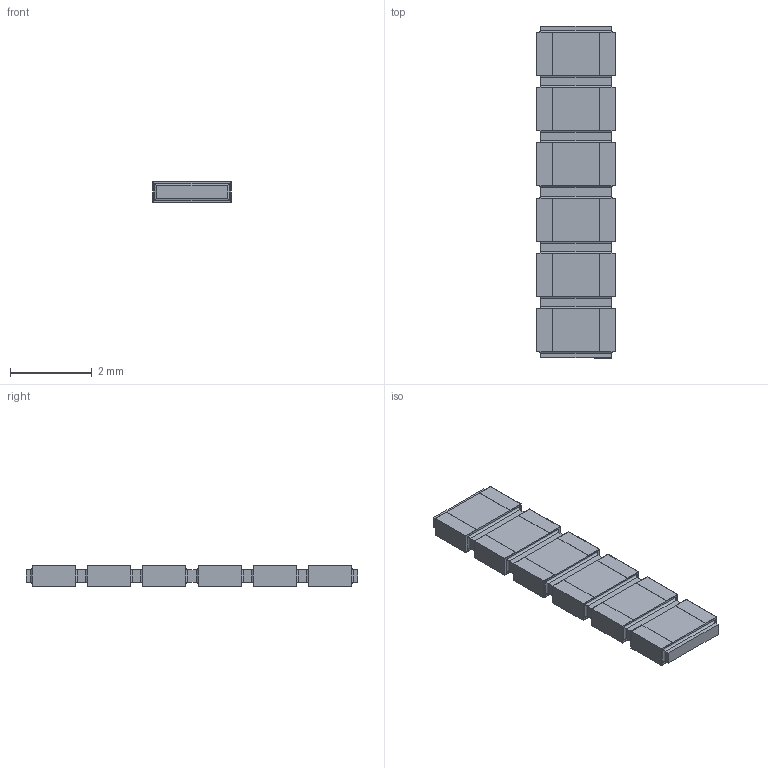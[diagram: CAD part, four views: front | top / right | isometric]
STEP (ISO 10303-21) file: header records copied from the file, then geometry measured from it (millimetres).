
FILE_DESCRIPTION(/* description */ (''),/* implementation_level */ '2;1');
FILE_NAME(/* name */ 'S:\DOCUMENT\AUTOCAD\3D_Modèles\10_3D-pour-VISHAY-COM\PRA\PRA135\PRA135-I2_à_I8\10_IGES\PRA135I6_B-or-N-or-G.stp',/* time_stamp */ '2017-12-18T12:07:22+01:00',/* author */ ('dparmentier'),/* organization */ ('unknown'),/* preprocessor_version */ 'ST-DEVELOPER v17',/* originating_system */ 'Autodesk Inventor 2018',/* authorisation */ '');
FILE_SCHEMA (('AUTOMOTIVE_DESIGN { 1 0 10303 214 3 1 1 }'));
Length unit declared in the file: millimetre
Products named in the file (1): PRA135I6_B-or-N-or-G
Bounding box: 1.91 x 8.1 x 0.5 mm (x, y, z)
Volume: 6.9 mm3; surface area: 74.1 mm2
Topology: 13 solids, 13 shells, 234 faces, 540 edges, 344 vertices
Faces by surface type: plane 186, cylinder 48
Entity records: 6509 total; most frequent: CARTESIAN_POINT 1119, ORIENTED_EDGE 1080, DIRECTION 1058, EDGE_CURVE 540, LINE 492, VECTOR 492, VERTEX_POINT 344, AXIS2_PLACEMENT_3D 283
